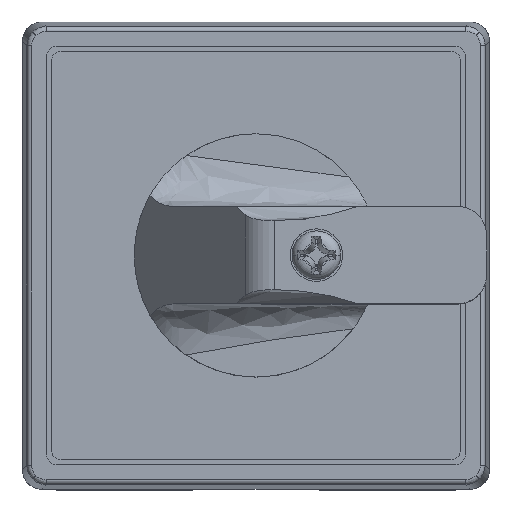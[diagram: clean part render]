
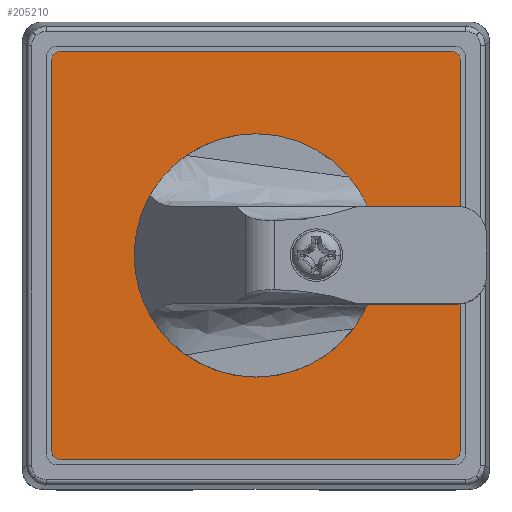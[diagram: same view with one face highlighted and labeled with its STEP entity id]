
A CAD part, top view. The second image highlights one B-rep face of the part: STEP entity #205210.
In plain terms, the highlighted planar face has unit normal (0, 0, 1).
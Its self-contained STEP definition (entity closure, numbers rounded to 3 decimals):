
#2214 = DIRECTION ( 'NONE',  ( 0., 0., 1. ) ) ;
#2279 = CARTESIAN_POINT ( 'NONE',  ( 27.361, 14.889, -100.482 ) ) ;
#3211 = EDGE_CURVE ( 'NONE', #188834, #114146, #85819, .T. ) ;
#3912 = AXIS2_PLACEMENT_3D ( 'NONE', #210662, #15618, #79737 ) ;
#6226 = EDGE_CURVE ( 'NONE', #107753, #95235, #193287, .T. ) ;
#14007 = CIRCLE ( 'NONE', #104999, 1. ) ;
#15618 = DIRECTION ( 'NONE',  ( 0., 0., 1. ) ) ;
#20003 = EDGE_CURVE ( 'NONE', #183926, #32766, #116248, .T. ) ;
#28079 = ORIENTED_EDGE ( 'NONE', *, *, #6226, .T. ) ;
#29901 = DIRECTION ( 'NONE',  ( 0., 0., 1. ) ) ;
#31909 = CARTESIAN_POINT ( 'NONE',  ( -13.639, -26.111, -100.482 ) ) ;
#32766 = VERTEX_POINT ( 'NONE', #62439 ) ;
#33789 = CARTESIAN_POINT ( 'NONE',  ( 27.361, 14.889, -100.482 ) ) ;
#35677 = DIRECTION ( 'NONE',  ( 1., 0., 0. ) ) ;
#36402 = CIRCLE ( 'NONE', #121007, 1. ) ;
#36740 = CARTESIAN_POINT ( 'NONE',  ( -13.639, 15.889, -100.482 ) ) ;
#37083 = VERTEX_POINT ( 'NONE', #76269 ) ;
#37594 = EDGE_CURVE ( 'NONE', #185954, #116978, #174659, .T. ) ;
#39192 = EDGE_CURVE ( 'NONE', #114146, #37083, #128735, .T. ) ;
#42803 = VECTOR ( 'NONE', #166237, 1000. ) ;
#49067 = CIRCLE ( 'NONE', #105436, 10.35 ) ;
#50515 = CARTESIAN_POINT ( 'NONE',  ( -3.989, -5.111, -100.482 ) ) ;
#52084 = EDGE_CURVE ( 'NONE', #166356, #107753, #36402, .T. ) ;
#62439 = CARTESIAN_POINT ( 'NONE',  ( 16.711, -5.111, -100.482 ) ) ;
#62836 = ORIENTED_EDGE ( 'NONE', *, *, #52084, .T. ) ;
#64591 = ORIENTED_EDGE ( 'NONE', *, *, #20003, .F. ) ;
#69277 = ORIENTED_EDGE ( 'NONE', *, *, #176503, .T. ) ;
#73043 = AXIS2_PLACEMENT_3D ( 'NONE', #168790, #2214, #35677 ) ;
#74211 = ORIENTED_EDGE ( 'NONE', *, *, #3211, .T. ) ;
#76269 = CARTESIAN_POINT ( 'NONE',  ( 27.361, -25.111, -100.482 ) ) ;
#77601 = CARTESIAN_POINT ( 'NONE',  ( 6.361, -5.111, -100.482 ) ) ;
#79737 = DIRECTION ( 'NONE',  ( -1., 0., 0. ) ) ;
#80917 = CARTESIAN_POINT ( 'NONE',  ( -14.639, -25.111, -100.482 ) ) ;
#81251 = EDGE_LOOP ( 'NONE', ( #64591, #203835 ) ) ;
#85819 = LINE ( 'NONE', #31909, #108359 ) ;
#88159 = DIRECTION ( 'NONE',  ( 0., 0., 1. ) ) ;
#93353 = ORIENTED_EDGE ( 'NONE', *, *, #39192, .T. ) ;
#95235 = VERTEX_POINT ( 'NONE', #80917 ) ;
#102268 = CARTESIAN_POINT ( 'NONE',  ( -13.639, 14.889, -100.482 ) ) ;
#104732 = CARTESIAN_POINT ( 'NONE',  ( -14.639, 14.889, -100.482 ) ) ;
#104999 = AXIS2_PLACEMENT_3D ( 'NONE', #167961, #88159, #182951 ) ;
#105436 = AXIS2_PLACEMENT_3D ( 'NONE', #116861, #167483, #133364 ) ;
#105839 = DIRECTION ( 'NONE',  ( 0., 0., 1. ) ) ;
#107491 = ORIENTED_EDGE ( 'NONE', *, *, #37594, .T. ) ;
#107753 = VERTEX_POINT ( 'NONE', #108259 ) ;
#108259 = CARTESIAN_POINT ( 'NONE',  ( -14.639, 14.889, -100.482 ) ) ;
#108359 = VECTOR ( 'NONE', #194844, 1000. ) ;
#108651 = CARTESIAN_POINT ( 'NONE',  ( 26.361, 14.889, -100.482 ) ) ;
#114146 = VERTEX_POINT ( 'NONE', #208497 ) ;
#116248 = CIRCLE ( 'NONE', #183720, 10.35 ) ;
#116861 = CARTESIAN_POINT ( 'NONE',  ( 6.361, -5.111, -100.482 ) ) ;
#116978 = VERTEX_POINT ( 'NONE', #117281 ) ;
#117281 = CARTESIAN_POINT ( 'NONE',  ( 26.361, 15.889, -100.482 ) ) ;
#118155 = DIRECTION ( 'NONE',  ( 0., 1., 0. ) ) ;
#120965 = PLANE ( 'NONE',  #73043 ) ;
#121007 = AXIS2_PLACEMENT_3D ( 'NONE', #102268, #165067, #134451 ) ;
#124326 = ORIENTED_EDGE ( 'NONE', *, *, #199297, .T. ) ;
#127235 = VECTOR ( 'NONE', #118155, 1000. ) ;
#128735 = CIRCLE ( 'NONE', #3912, 1. ) ;
#133364 = DIRECTION ( 'NONE',  ( 1., 0., 0. ) ) ;
#134451 = DIRECTION ( 'NONE',  ( -1., 0., 0. ) ) ;
#135552 = DIRECTION ( 'NONE',  ( 0., -1., 0. ) ) ;
#139819 = VECTOR ( 'NONE', #135552, 1000. ) ;
#142394 = EDGE_CURVE ( 'NONE', #37083, #185954, #155354, .T. ) ;
#145537 = AXIS2_PLACEMENT_3D ( 'NONE', #108651, #105839, #206266 ) ;
#155354 = LINE ( 'NONE', #2279, #127235 ) ;
#162294 = CARTESIAN_POINT ( 'NONE',  ( -13.639, 15.889, -100.482 ) ) ;
#165067 = DIRECTION ( 'NONE',  ( 0., 0., 1. ) ) ;
#166237 = DIRECTION ( 'NONE',  ( -1., 0., 0. ) ) ;
#166356 = VERTEX_POINT ( 'NONE', #162294 ) ;
#167483 = DIRECTION ( 'NONE',  ( 0., 0., 1. ) ) ;
#167961 = CARTESIAN_POINT ( 'NONE',  ( -13.639, -25.111, -100.482 ) ) ;
#168790 = CARTESIAN_POINT ( 'NONE',  ( 26.361, 14.889, -100.482 ) ) ;
#174659 = CIRCLE ( 'NONE', #145537, 1. ) ;
#175829 = DIRECTION ( 'NONE',  ( 1., 0., 0. ) ) ;
#176503 = EDGE_CURVE ( 'NONE', #95235, #188834, #14007, .T. ) ;
#176976 = ORIENTED_EDGE ( 'NONE', *, *, #142394, .T. ) ;
#180568 = EDGE_CURVE ( 'NONE', #32766, #183926, #49067, .T. ) ;
#182951 = DIRECTION ( 'NONE',  ( -1., 0., 0. ) ) ;
#183720 = AXIS2_PLACEMENT_3D ( 'NONE', #77601, #29901, #175829 ) ;
#183926 = VERTEX_POINT ( 'NONE', #50515 ) ;
#185954 = VERTEX_POINT ( 'NONE', #33789 ) ;
#186467 = EDGE_LOOP ( 'NONE', ( #107491, #124326, #62836, #28079, #69277, #74211, #93353, #176976 ) ) ;
#188053 = LINE ( 'NONE', #36740, #42803 ) ;
#188834 = VERTEX_POINT ( 'NONE', #193472 ) ;
#193287 = LINE ( 'NONE', #104732, #139819 ) ;
#193472 = CARTESIAN_POINT ( 'NONE',  ( -13.639, -26.111, -100.482 ) ) ;
#194844 = DIRECTION ( 'NONE',  ( 1., 0., 0. ) ) ;
#195553 = FACE_BOUND ( 'NONE', #81251, .T. ) ;
#199297 = EDGE_CURVE ( 'NONE', #116978, #166356, #188053, .T. ) ;
#203835 = ORIENTED_EDGE ( 'NONE', *, *, #180568, .F. ) ;
#205210 = ADVANCED_FACE ( 'NONE', ( #210852, #195553 ), #120965, .T. ) ;
#206266 = DIRECTION ( 'NONE',  ( 1., 0., 0. ) ) ;
#208497 = CARTESIAN_POINT ( 'NONE',  ( 26.361, -26.111, -100.482 ) ) ;
#210662 = CARTESIAN_POINT ( 'NONE',  ( 26.361, -25.111, -100.482 ) ) ;
#210852 = FACE_OUTER_BOUND ( 'NONE', #186467, .T. ) ;
